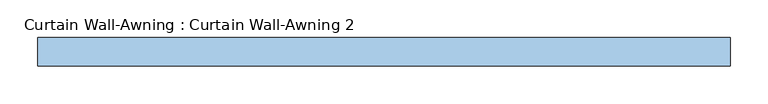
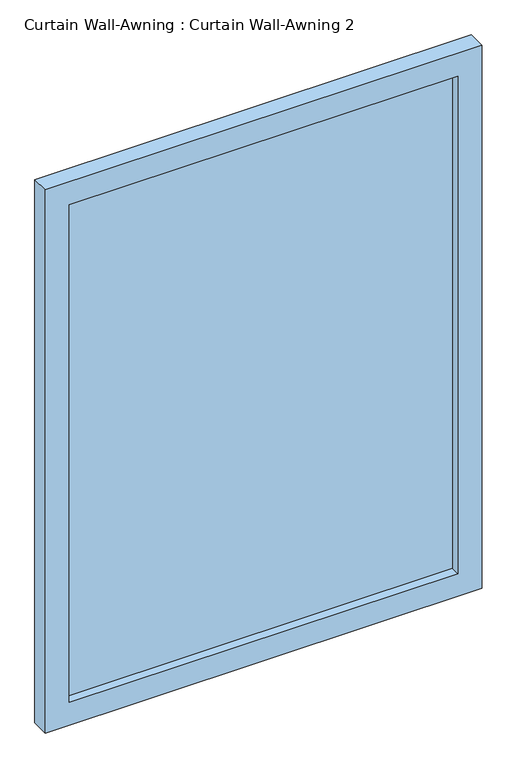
"""IFC4 building model written with IfcOpenShell, lengths in millimetres: window geometry, Curtain Wall-Awning : Curtain Wall-Awning 2."""

from ifc_helpers import new_model, si_unit, frame, origin, place, context, project, spatial, polyline, outline, extrude, source, transform, mapped, element, save


def curtain_wall_awning_curtain_wall_awning_2_41df714c(model_context):
    return source(origin(), model_context, "Body", "SweptSolid", [
        extrude(outline(polyline([(409.575, -19.05), (-409.575, -19.05), (-409.575, -6.35), (409.575, -6.35), (409.575, -19.05)])), frame((0.0, 0.0, 50.8), z_axis=(0.0, 0.0, 1.0), x_axis=(1.0, 0.0, 0.0)), (0.0, 0.0, 1.0), 1109.0360779),
        extrude(outline(polyline([(1210.6360779, -460.375), (0.0, -460.375), (0.0, 460.375), (1210.6360779, 460.375), (1210.6360779, -460.375)]), holes=[polyline([(1159.8360779, -409.575), (1159.8360779, 409.575), (50.8, 409.575), (50.8, -409.575), (1159.8360779, -409.575)])]), frame((0.0, -38.1, 0.0), z_axis=(0.0, 1.0, 0.0), x_axis=(0.0, 0.0, 1.0)), (0.0, 0.0, 1.0), 38.1),
    ])


if __name__ == "__main__":
    model = new_model("IFC4")
    model_context = context("Model", 3, world=origin())
    ifc_project = project(units=[si_unit("LENGTHUNIT", "METRE", prefix="MILLI")], contexts=[model_context])
    site = spatial("IfcSite", under=ifc_project)
    building = spatial("IfcBuilding", under=site)
    placement = place(None, origin())
    curtain_wall_awning_curtain_wall_awning_2_shape = curtain_wall_awning_curtain_wall_awning_2_41df714c(model_context)
    element("IfcWindow", 1, ObjectType="Curtain Wall-Awning : Curtain Wall-Awning 2", at=placement, inside=building, context=model_context, shape_type="MappedRepresentation", body=[
        mapped(curtain_wall_awning_curtain_wall_awning_2_shape, transform((0.0, 0.0, 0.0), x_axis=(1.0, 0.0, 0.0), y_axis=(0.0, 1.0, 0.0), z_axis=(0.0, 0.0, 1.0))),
    ])
    save(model, "model.ifc")
